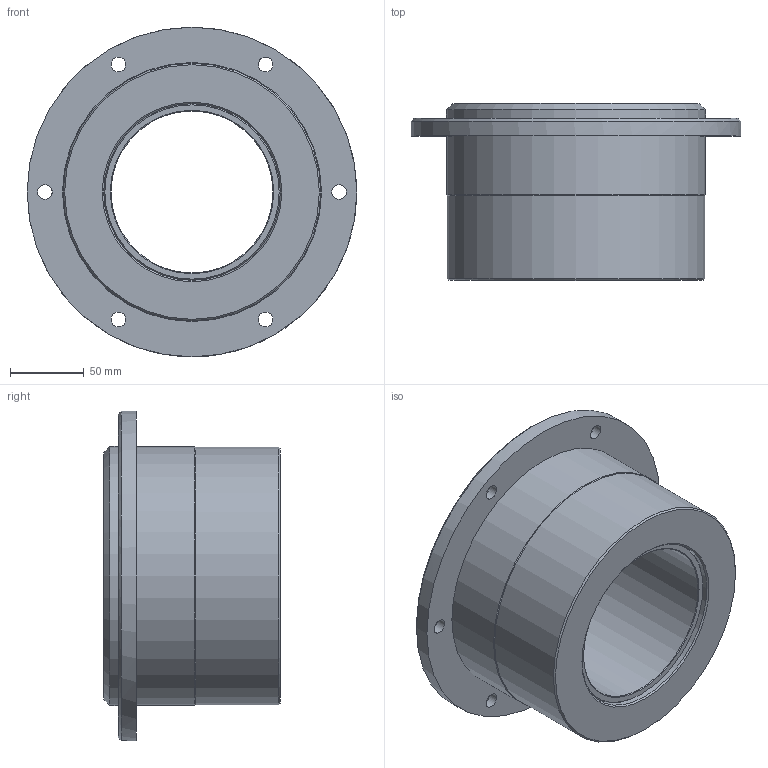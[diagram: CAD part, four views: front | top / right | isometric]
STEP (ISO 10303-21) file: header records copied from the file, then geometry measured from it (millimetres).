
FILE_DESCRIPTION(('STEP AP214'),'1');
FILE_NAME('C:/Projets/Serie 10.xx.xx/10.13.11.step','2011-11-10T15:52:57',(' '),(' '),'Spatial InterOp 3D',' ',' ');
FILE_SCHEMA(('automotive_design'));
Length unit declared in the file: metre
Products named in the file (3): boitier 11; rotule 11; 1
Bounding box: 224 x 120 x 224 mm (x, y, z)
Volume: 1765005.4 mm3; surface area: 261901.4 mm2
Topology: 2 solids, 2 shells, 57 faces, 1661 edges, 3109 vertices
Faces by surface type: cone 21, cylinder 20, plane 14, sphere 2
Full cylindrical faces by diameter (mm): 10 x6, 110 x1, 120 x1, 175 x1, 176 x2, 224 x1
Entity records: 20261 total; most frequent: CARTESIAN_POINT 1858, DIRECTION 1804, STYLED_ITEM 1569, PRESENTATION_STYLE_ASSIGNMENT 1569, COLOUR_RGB 1569, LINE 1530, VECTOR 1530, TRIMMED_CURVE 1512
